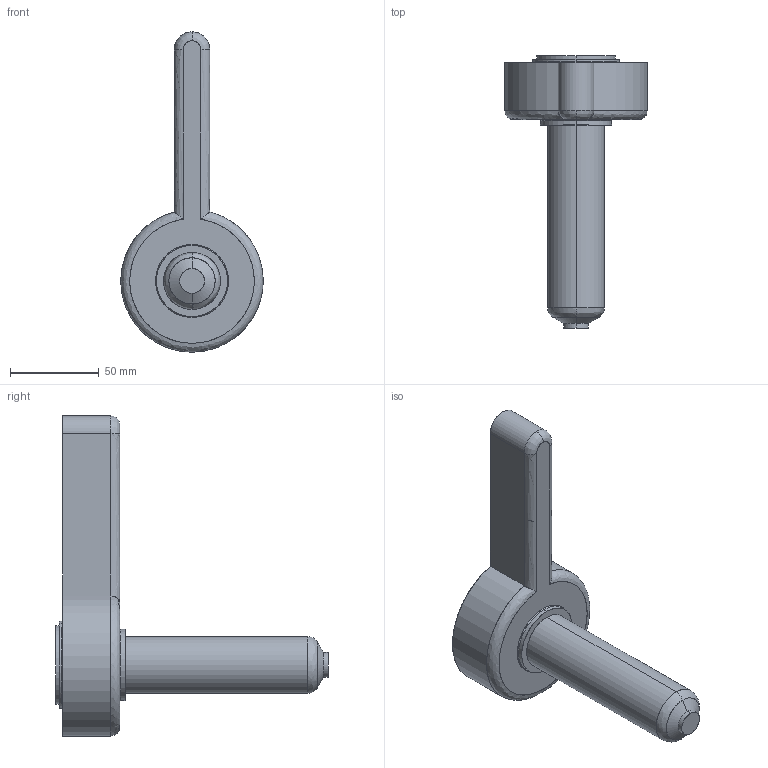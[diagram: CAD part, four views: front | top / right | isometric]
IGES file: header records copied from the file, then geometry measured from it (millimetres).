
Start section: SolidWorks IGES file using analytic representation for surfaces
Global section: file name: C:\Documents and Settings\ws-20\Desktop\TEM\Sede UGBE4503-S-A C-114 L-151 P-0.IGS; native system: SolidWorks 2012; preprocessor: SolidWorks 2012; author: ws-20; date: 120412.155647; units: millimetre
Bounding box: 79.97 x 153.29 x 180 mm (x, y, z)
Surface area: 38980.7 mm2 (no closed solid volume)
Topology: 0 solids, 0 shells, 34 faces, 788 edges, 788 vertices
Faces by surface type: revolution 21, bspline 13
